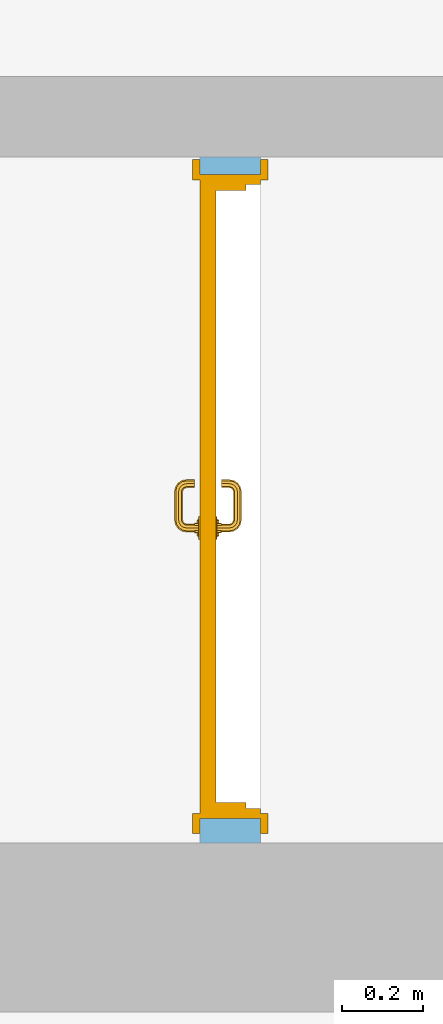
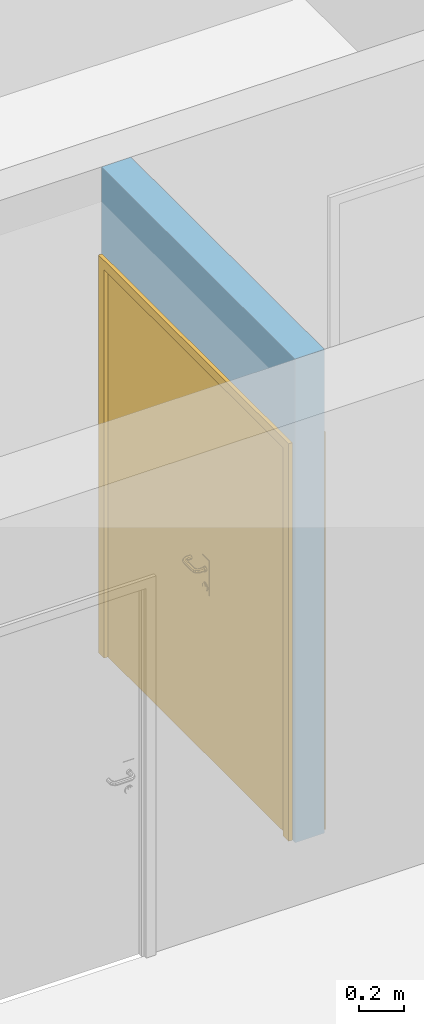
# One storey, part 50 of 127: 1 door, 1 opening, plus 1 element that does not belong to this part.
"""IFC2X3 building model written with IfcOpenShell, lengths in millimetres."""

from ifc_helpers import new_model, entity, si_unit, converted_unit, derived_unit, money_unit, direction, frame, origin_with_axes, origin_2d_with_axis, place, context, subcontext, project, spatial, polyline, rectangle, outline, extrude, open_shell, faceted_brep, surface_model, material, layer, layer_set, layer_usage, type_object, element, fill, save


model = new_model("IFC2X3")

# Units and contexts
model_context = context("Model", 3, precision=1e-05, world=origin_with_axes(), true_north=direction((0.0, 1.0)))
body_context = subcontext(model_context, "Body", "Model", "MODEL_VIEW")
ifc_project = project(units=[si_unit("LENGTHUNIT", "METRE", prefix="MILLI"), si_unit("AREAUNIT", "SQUARE_METRE"), si_unit("VOLUMEUNIT", "CUBIC_METRE"), converted_unit("PLANEANGLEUNIT", "DEGREE", entity("IfcPlaneAngleMeasure", 0.0174532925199), si_unit("PLANEANGLEUNIT", "RADIAN"), dimensions=[0, 0, 0, 0, 0, 0, 0]), si_unit("SOLIDANGLEUNIT", "STERADIAN"), money_unit("EUR"), converted_unit("TIMEUNIT", "Year", entity("IfcTimeMeasure", 31556926.0), si_unit("TIMEUNIT", "SECOND"), dimensions=[0, 0, 1, 0, 0, 0, 0]), si_unit("MASSUNIT", "GRAM", prefix="KILO"), si_unit("THERMODYNAMICTEMPERATUREUNIT", "DEGREE_CELSIUS"), si_unit("LUMINOUSINTENSITYUNIT", "LUMEN"), si_unit("ENERGYUNIT", "JOULE", prefix="MEGA"), derived_unit("THERMALCONDUCTANCEUNIT", [(si_unit("POWERUNIT", "WATT"), 1), (si_unit("LENGTHUNIT", "METRE"), -1), (si_unit("THERMODYNAMICTEMPERATUREUNIT", "KELVIN"), -1)]), derived_unit("SPECIFICHEATCAPACITYUNIT", [(si_unit("ENERGYUNIT", "JOULE"), 1), (si_unit("MASSUNIT", "GRAM", prefix="KILO"), -1), (si_unit("THERMODYNAMICTEMPERATUREUNIT", "KELVIN"), -1)]), derived_unit("MASSDENSITYUNIT", [(si_unit("MASSUNIT", "GRAM", prefix="KILO"), 1), (si_unit("VOLUMEUNIT", "CUBIC_METRE"), -1)])], contexts=[model_context])

# Site, building, storey
site_placement = place(None, origin_with_axes())
site = spatial("IfcSite", under=ifc_project, at=site_placement, Name="Site", CompositionType="ELEMENT")
building_placement = place(site_placement, origin_with_axes())
building = spatial("IfcBuilding", under=site, at=building_placement, Name="Building", CompositionType="ELEMENT")
storey_placement = place(building_placement, origin_with_axes())
storey = spatial("IfcBuildingStorey", under=building, at=storey_placement, Name="1 KORRUS", CompositionType="ELEMENT", Elevation=0.0)

# Wall, opening, door
ifc_material = material(Name="Kivi -  Uus Konstruktsioon")
ifc_layer = layer(ifc_material, 150.0, ventilated="UNKNOWN")
ifc_layer_set = layer_set([ifc_layer], Name="uus ss 150")
ifc_layer_usage = layer_usage(ifc_layer_set, "AXIS2", "POSITIVE", 0.0)
wall_type = type_object("IfcWallType", Name="SS-2", PredefinedType="NOTDEFINED")
wall_placement = place(storey_placement, frame((66803.8474773, 42706.5120665, 0.0), z_axis=(0.0, 0.0, 1.0), x_axis=(0.0, -1.0, 0.0)))
wall = element("IfcWallStandardCase", 1, at=wall_placement, inside=storey, type_object=wall_type, material=ifc_layer_usage, Name="uus ss 150", context=body_context, shape_type="SweptSolid", body=[
    extrude(outline(polyline([(0.0, 0.0), (1703.44713842, 0.0), (1703.44713842, 150.0), (0.0, 150.0), (0.0, 0.0)])), origin_with_axes(), (0.0, 0.0, 1.0), 2600.0),
])
opening_placement = place(wall_placement, frame((843.169461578, 0.0, 0.0), z_axis=(0.0, 0.0, 1.0), x_axis=(1.0, 0.0, 0.0)))
opening = element("IfcOpeningElement", 2, at=opening_placement, cuts=wall, Name="Siseuks * Double Door 22", context=body_context, shape_type="SweptSolid", body=[
    extrude(rectangle(XDim=1600.0, YDim=2100.0, at=origin_2d_with_axis()), frame((0.0, 150.0, 1050.0), z_axis=(0.0, -1.0, 0.0), x_axis=(-1.0, 0.0, 0.0)), (0.0, 0.0, 1.0), 450.0),
    extrude(rectangle(XDim=1674.0, YDim=2137.0, at=origin_2d_with_axis()), frame((0.0, 150.0, 1068.5), z_axis=(0.0, -1.0, 0.0), x_axis=(-1.0, 0.0, 0.0)), (0.0, 0.0, -1.0), 150.0),
    extrude(rectangle(XDim=1674.0, YDim=2137.0, at=origin_2d_with_axis()), frame((0.0, 0.0, 1068.5), z_axis=(0.0, 1.0, 0.0), x_axis=(-1.0, 0.0, 0.0)), (0.0, 0.0, -1.0), 150.0),
])
door_style = type_object("IfcDoorStyle", Name="SU-B137   1\xa0600×2\xa0100", ConstructionType="NOTDEFINED", OperationType="DOUBLE_DOOR_SINGLE_SWING", ParameterTakesPrecedence=False, Sizeable=False)
door_placement = place(opening_placement, frame((800.0, 0.0, 0.0), z_axis=(0.0, 0.0, 1.0), x_axis=(-1.0, 0.0, 0.0)))
door = element("IfcDoor", 3, at=door_placement, inside=storey, type_object=door_style, Name="Siseuks * Double Door 22", OverallHeight=2100.0, OverallWidth=1600.0, context=body_context, shape_type="SurfaceModel", body=[
    faceted_brep([(0.0, -115.0, 0.0), (25.0000000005, -115.0, 0.0), (25.0000000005, -150.0, 0.0), (0.0, -150.0, 0.0), (0.0, -115.0, 2100.0), (25.0000000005, -115.0, 2075.0), (25.0000000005, -150.0, 2075.0), (0.0, -150.0, 2100.0)], [[[0, 1, 2, 3]], [[0, 4, 5, 1]], [[1, 5, 6, 2]], [[3, 2, 6, 7]], [[4, 0, 3, 7]], [[5, 4, 7, 6]]]),
    faceted_brep([(1600.0, -115.0, 2100.0), (1575.0, -115.0, 2075.0), (1575.0, -150.0, 2075.0), (1600.0, -150.0, 2100.0), (1600.0, -115.0, 0.0), (1575.0, -115.0, 0.0), (1575.0, -150.0, 0.0), (1600.0, -150.0, 0.0)], [[[0, 1, 2, 3]], [[0, 4, 5, 1]], [[1, 5, 6, 2]], [[3, 2, 6, 7]], [[4, 0, 3, 7]], [[5, 4, 7, 6]]]),
    faceted_brep([(25.0000000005, -115.0, 2075.0), (1575.0, -115.0, 2075.0), (1575.0, -150.0, 2075.0), (25.0000000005, -150.0, 2075.0), (0.0, -115.0, 2100.0), (1600.0, -115.0, 2100.0), (1600.0, -150.0, 2100.0), (0.0, -150.0, 2100.0)], [[[0, 1, 2, 3]], [[0, 4, 5, 1]], [[1, 5, 6, 2]], [[3, 2, 6, 7]], [[4, 0, 3, 7]], [[5, 4, 7, 6]]]),
    faceted_brep([(-37.0000000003, -169.0, 0.0), (-37.0000000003, -150.0, 0.0), (12.9999999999, -150.0, 0.0), (12.9999999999, -169.0, 0.0), (-37.0000000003, -169.0, 2137.0), (-37.0000000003, -150.0, 2137.0), (12.9999999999, -150.0, 2087.0), (12.9999999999, -169.0, 2087.0)], [[[0, 1, 2, 3]], [[4, 5, 1, 0]], [[1, 5, 6, 2]], [[3, 2, 6, 7]], [[0, 3, 7, 4]], [[7, 6, 5, 4]]]),
    faceted_brep([(1637.0, -169.0, 2137.0), (1637.0, -150.0, 2137.0), (1587.0, -150.0, 2087.0), (1587.0, -169.0, 2087.0), (1637.0, -169.0, 0.0), (1637.0, -150.0, 0.0), (1587.0, -150.0, 0.0), (1587.0, -169.0, 0.0)], [[[0, 1, 2, 3]], [[4, 5, 1, 0]], [[1, 5, 6, 2]], [[3, 2, 6, 7]], [[0, 3, 7, 4]], [[7, 6, 5, 4]]]),
    faceted_brep([(-37.0000000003, -169.0, 2137.0), (-37.0000000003, -150.0, 2137.0), (12.9999999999, -150.0, 2087.0), (12.9999999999, -169.0, 2087.0), (1637.0, -169.0, 2137.0), (1637.0, -150.0, 2137.0), (1587.0, -150.0, 2087.0), (1587.0, -169.0, 2087.0)], [[[0, 1, 2, 3]], [[4, 5, 1, 0]], [[1, 5, 6, 2]], [[3, 2, 6, 7]], [[0, 3, 7, 4]], [[7, 6, 5, 4]]]),
    faceted_brep([(-37.0000000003, 19.0, 0.0), (12.9999999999, 19.0, 0.0), (12.9999999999, 0.0, 0.0), (-37.0000000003, 0.0, 0.0), (-37.0000000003, 19.0, 2137.0), (12.9999999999, 19.0, 2087.0), (12.9999999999, 0.0, 2087.0), (-37.0000000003, 0.0, 2137.0)], [[[0, 1, 2, 3]], [[0, 4, 5, 1]], [[1, 5, 6, 2]], [[3, 2, 6, 7]], [[4, 0, 3, 7]], [[5, 4, 7, 6]]]),
    faceted_brep([(1637.0, 19.0, 2137.0), (1587.0, 19.0, 2087.0), (1587.0, 0.0, 2087.0), (1637.0, 0.0, 2137.0), (1637.0, 19.0, 0.0), (1587.0, 19.0, 0.0), (1587.0, 0.0, 0.0), (1637.0, 0.0, 0.0)], [[[0, 1, 2, 3]], [[0, 4, 5, 1]], [[1, 5, 6, 2]], [[3, 2, 6, 7]], [[4, 0, 3, 7]], [[5, 4, 7, 6]]]),
    faceted_brep([(-37.0000000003, 19.0, 2137.0), (12.9999999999, 19.0, 2087.0), (12.9999999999, 0.0, 2087.0), (-37.0000000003, 0.0, 2137.0), (1637.0, 19.0, 2137.0), (1587.0, 19.0, 2087.0), (1587.0, 0.0, 2087.0), (1637.0, 0.0, 2137.0)], [[[0, 1, 2, 3]], [[0, 4, 5, 1]], [[1, 5, 6, 2]], [[3, 2, 6, 7]], [[4, 0, 3, 7]], [[5, 4, 7, 6]]]),
    faceted_brep([(40.0, -40.0, 0.0), (40.0, -40.0, 2060.0), (40.0, -115.0, 2060.0), (40.0, -115.0, 0.0), (28.0000000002, -40.0, 2060.0), (28.0000000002, -40.0, 0.0), (28.0000000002, 0.0, 2060.0), (0.0, 0.0, 2060.0), (0.0, -115.0, 2060.0), (0.0, -115.0, 0.0), (0.0, 0.0, 0.0), (28.0000000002, 0.0, 0.0)], [[[0, 1, 2, 3]], [[4, 1, 0, 5]], [[4, 6, 7, 8, 2, 1]], [[3, 2, 8, 9]], [[5, 0, 3, 9, 10, 11]], [[6, 4, 5, 11]], [[6, 11, 10, 7]], [[10, 9, 8, 7]]]),
    faceted_brep([(1572.0, -40.0, 2060.0), (1560.0, -40.0, 2060.0), (1560.0, -115.0, 2060.0), (1600.0, -115.0, 2060.0), (1600.0, 0.0, 2060.0), (1572.0, 0.0, 2060.0), (1572.0, -40.0, 0.0), (1560.0, -40.0, 0.0), (1560.0, -115.0, 0.0), (1600.0, -115.0, 0.0), (1600.0, 0.0, 0.0), (1572.0, 0.0, 0.0)], [[[0, 1, 2, 3, 4, 5]], [[1, 0, 6, 7]], [[1, 7, 8, 2]], [[3, 2, 8, 9]], [[4, 3, 9, 10]], [[11, 5, 4, 10]], [[0, 5, 11, 6]], [[6, 11, 10, 9, 8, 7]]]),
    faceted_brep([(28.0000000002, 0.0, 2072.0), (28.0000000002, 0.0, 2060.0), (0.0, 0.0, 2060.0), (0.0, 0.0, 2100.0), (1600.0, 0.0, 2100.0), (1600.0, 0.0, 2060.0), (1572.0, 0.0, 2060.0), (1572.0, 0.0, 2072.0), (28.0000000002, -40.0, 2072.0), (28.0000000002, -40.0, 2060.0), (40.0, -40.0, 2060.0), (40.0, -115.0, 2060.0), (0.0, -115.0, 2060.0), (0.0, -115.0, 2100.0), (1600.0, -115.0, 2100.0), (1600.0, -115.0, 2060.0), (1572.0, -40.0, 2060.0), (1560.0, -115.0, 2060.0), (1560.0, -40.0, 2060.0), (1572.0, -40.0, 2072.0)], [[[0, 1, 2, 3, 4, 5, 6, 7]], [[1, 0, 8, 9]], [[9, 10, 11, 12, 2, 1]], [[2, 12, 13, 3]], [[3, 13, 14, 4]], [[4, 14, 15, 5]], [[16, 6, 5, 15, 17, 18]], [[7, 6, 16, 19]], [[0, 7, 19, 8]], [[16, 18, 10, 9, 8, 19]], [[10, 18, 17, 11]], [[17, 15, 14, 13, 12, 11]]]),
    faceted_brep([(693.5, -40.0, 1060.0), (693.5, -43.0, 1060.0), (750.5, -43.0, 1060.0), (750.5, -40.0, 1060.0), (693.5, -40.0, 870.0), (693.5, -43.0, 870.0), (750.5, -43.0, 870.0), (750.5, -40.0, 870.0)], [[[0, 1, 2, 3]], [[4, 5, 1, 0]], [[1, 5, 6, 2]], [[3, 2, 6, 7]], [[0, 3, 7, 4]], [[7, 6, 5, 4]]]),
    surface_model("IfcShellBasedSurfaceModel", [(732.0, -53.0, 1000.0), (732.0, -72.0150859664, 1000.0), (729.071067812, -72.303560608, 992.928932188), (729.071067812, -53.0, 992.928932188), (729.071067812, -53.0, 1007.07106781), (729.071067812, -72.303560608, 1007.07106781), (732.942203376, -76.7518622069, 1000.0), (730.183209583, -77.8946748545, 992.928932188), (722.0, -73.0, 990.0), (722.0, -53.0, 990.0), (722.0, -53.0, 1010.0), (722.0, -73.0, 1010.0), (730.183209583, -77.8946748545, 1007.07106781), (735.067462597, -79.9325374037, 1000.0), (732.955820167, -82.0441798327, 992.928932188), (723.52240935, -80.6536686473, 990.0), (714.928932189, -73.6964393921, 992.928932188), (714.928932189, -53.0, 992.928932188), (714.928932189, -53.0, 1007.07106781), (714.928932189, -73.6964393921, 1007.07106781), (723.52240935, -80.6536686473, 1010.0), (732.955820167, -82.0441798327, 1007.07106781), (738.248137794, -82.0577966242, 1000.0), (737.105325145, -84.8167904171, 992.928932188), (727.857864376, -87.1421356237, 990.0), (716.861609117, -83.4126624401, 992.928932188), (712.0, -73.9849140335, 1000.0), (712.0, -53.0, 1000.0), (716.861609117, -83.4126624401, 1007.07106781), (727.857864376, -87.1421356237, 1010.0), (737.105325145, -84.8167904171, 1007.07106781), (742.984914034, -83.0, 1000.0), (742.696439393, -85.9289321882, 992.928932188), (734.346331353, -91.4775906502, 990.0), (722.759908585, -92.2400914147, 992.928932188), (714.102615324, -84.5554750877, 1000.0), (722.759908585, -92.2400914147, 1007.07106781), (734.346331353, -91.4775906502, 1010.0), (742.696439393, -85.9289321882, 1007.07106781), (811.015085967, -83.0, 1000.0), (811.303560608, -85.9289321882, 992.928932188), (742.0, -93.0, 990.0), (731.58733756, -98.1383908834, 992.928932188), (720.648266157, -94.3517338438, 1000.0), (731.58733756, -98.1383908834, 1007.07106781), (742.0, -93.0, 1010.0), (811.303560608, -85.9289321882, 1007.07106781), (815.751862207, -82.0577966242, 1000.0), (816.894674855, -84.8167904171, 992.928932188), (812.0, -93.0, 990.0), (741.303560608, -100.071067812, 992.928932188), (730.444524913, -100.897384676, 1000.0), (741.303560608, -100.071067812, 1007.07106781), (812.0, -93.0, 1010.0), (816.894674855, -84.8167904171, 1007.07106781), (818.932537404, -79.9325374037, 1000.0), (821.044179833, -82.0441798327, 992.928932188), (819.653668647, -91.4775906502, 990.0), (812.696439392, -100.071067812, 992.928932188), (741.015085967, -103.0, 1000.0), (812.696439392, -100.071067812, 1007.07106781), (819.653668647, -91.4775906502, 1010.0), (821.044179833, -82.0441798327, 1007.07106781), (821.057796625, -76.7518622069, 1000.0), (823.816790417, -77.8946748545, 992.928932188), (826.142135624, -87.1421356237, 990.0), (822.41266244, -98.1383908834, 992.928932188), (812.984914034, -103.0, 1000.0), (822.41266244, -98.1383908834, 1007.07106781), (826.142135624, -87.1421356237, 1010.0), (823.816790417, -77.8946748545, 1007.07106781), (822.0, -72.0150859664, 1000.0), (824.928932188, -72.303560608, 992.928932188), (830.477590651, -80.6536686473, 990.0), (831.240091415, -92.2400914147, 992.928932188), (823.555475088, -100.897384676, 1000.0), (831.240091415, -92.2400914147, 1007.07106781), (830.477590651, -80.6536686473, 1010.0), (824.928932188, -72.303560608, 1007.07106781), (822.0, -53.0, 1000.0), (824.928932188, -53.0, 992.928932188), (832.0, -73.0, 990.0), (837.138390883, -83.4126624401, 992.928932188), (833.351733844, -94.3517338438, 1000.0), (837.138390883, -83.4126624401, 1007.07106781), (832.0, -73.0, 1010.0), (824.928932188, -53.0, 1007.07106781), (832.0, -53.0, 1010.0), (839.071067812, -53.0, 1007.07106781), (842.000000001, -53.0, 1000.0), (839.071067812, -53.0, 992.928932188), (832.0, -53.0, 990.0), (839.071067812, -73.6964393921, 992.928932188), (839.897384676, -84.5554750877, 1000.0), (839.071067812, -73.6964393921, 1007.07106781), (842.000000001, -73.9849140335, 1000.0)], [open_shell([[[0, 1, 2, 3]], [[4, 5, 1, 0]], [[1, 6, 7, 2]], [[3, 2, 8, 9]], [[10, 11, 5, 4]], [[5, 12, 6, 1]], [[6, 13, 14, 7]], [[2, 7, 15, 8]], [[9, 8, 16, 17]], [[18, 19, 11, 10]], [[11, 20, 12, 5]], [[12, 21, 13, 6]], [[13, 22, 23, 14]], [[7, 14, 24, 15]], [[8, 15, 25, 16]], [[17, 16, 26, 27]], [[27, 26, 19, 18]], [[19, 28, 20, 11]], [[20, 29, 21, 12]], [[21, 30, 22, 13]], [[22, 31, 32, 23]], [[14, 23, 33, 24]], [[15, 24, 34, 25]], [[16, 25, 35, 26]], [[26, 35, 28, 19]], [[28, 36, 29, 20]], [[29, 37, 30, 21]], [[30, 38, 31, 22]], [[31, 39, 40, 32]], [[23, 32, 41, 33]], [[24, 33, 42, 34]], [[25, 34, 43, 35]], [[35, 43, 36, 28]], [[36, 44, 37, 29]], [[37, 45, 38, 30]], [[38, 46, 39, 31]], [[39, 47, 48, 40]], [[32, 40, 49, 41]], [[33, 41, 50, 42]], [[34, 42, 51, 43]], [[43, 51, 44, 36]], [[44, 52, 45, 37]], [[45, 53, 46, 38]], [[46, 54, 47, 39]], [[47, 55, 56, 48]], [[40, 48, 57, 49]], [[41, 49, 58, 50]], [[42, 50, 59, 51]], [[51, 59, 52, 44]], [[52, 60, 53, 45]], [[53, 61, 54, 46]], [[54, 62, 55, 47]], [[55, 63, 64, 56]], [[48, 56, 65, 57]], [[49, 57, 66, 58]], [[50, 58, 67, 59]], [[59, 67, 60, 52]], [[60, 68, 61, 53]], [[61, 69, 62, 54]], [[62, 70, 63, 55]], [[63, 71, 72, 64]], [[56, 64, 73, 65]], [[57, 65, 74, 66]], [[58, 66, 75, 67]], [[67, 75, 68, 60]], [[68, 76, 69, 61]], [[69, 77, 70, 62]], [[70, 78, 71, 63]], [[71, 79, 80, 72]], [[64, 72, 81, 73]], [[65, 73, 82, 74]], [[66, 74, 83, 75]], [[75, 83, 76, 68]], [[76, 84, 77, 69]], [[77, 85, 78, 70]], [[78, 86, 79, 71]], [[79, 86, 87, 88, 89, 90, 91, 80]], [[72, 80, 91, 81]], [[73, 81, 92, 82]], [[74, 82, 93, 83]], [[83, 93, 84, 76]], [[84, 94, 85, 77]], [[85, 87, 86, 78]], [[94, 88, 87, 85]], [[95, 89, 88, 94]], [[92, 90, 89, 95]], [[81, 91, 90, 92]], [[82, 92, 95, 93]], [[93, 95, 94, 84]]])]),
    faceted_brep([(732.392304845, -53.0, 994.0), (733.25833025, -43.0, 993.5), (735.000000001, -43.0, 1000.0), (734.0, -53.0, 1000.0), (728.0, -53.0, 989.607695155), (728.5, -43.0, 988.741669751), (722.0, -43.0, 987.0), (715.5, -43.0, 988.741669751), (710.741669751, -43.0, 993.5), (709.0, -43.0, 1000.0), (710.741669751, -43.0, 1006.5), (715.5, -43.0, 1011.25833025), (722.0, -43.0, 1013.0), (728.5, -43.0, 1011.25833025), (733.25833025, -43.0, 1006.5), (732.392304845, -53.0, 1006.0), (728.0, -53.0, 1010.39230485), (722.0, -53.0, 1012.0), (716.0, -53.0, 1010.39230485), (711.607695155, -53.0, 1006.0), (710.0, -53.0, 1000.0), (711.607695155, -53.0, 994.0), (716.0, -53.0, 989.607695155), (722.0, -53.0, 988.0)], [[[0, 1, 2, 3]], [[4, 5, 1, 0]], [[2, 1, 5, 6, 7, 8, 9, 10, 11, 12, 13, 14]], [[3, 2, 14, 15]], [[3, 15, 16, 17, 18, 19, 20, 21, 22, 23, 4, 0]], [[23, 6, 5, 4]], [[22, 7, 6, 23]], [[21, 8, 7, 22]], [[20, 9, 8, 21]], [[19, 10, 9, 20]], [[18, 11, 10, 19]], [[17, 12, 11, 18]], [[16, 13, 12, 17]], [[15, 14, 13, 16]]]),
    faceted_brep([(739.320508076, -47.0, 895.0), (741.052558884, -43.0, 894.0), (744.000000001, -43.0, 905.0), (742.0, -47.0, 905.0), (732.0, -47.0, 887.679491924), (733.0, -43.0, 885.947441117), (722.0, -43.0, 883.0), (711.0, -43.0, 885.947441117), (702.947441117, -43.0, 894.0), (700.0, -43.0, 905.0), (702.947441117, -43.0, 916.0), (711.0, -43.0, 924.052558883), (722.0, -43.0, 927.0), (733.0, -43.0, 924.052558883), (741.052558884, -43.0, 916.0), (739.320508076, -47.0, 915.0), (732.0, -47.0, 922.320508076), (722.0, -47.0, 925.0), (712.0, -47.0, 922.320508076), (704.679491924, -47.0, 915.0), (702.0, -47.0, 905.0), (704.679491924, -47.0, 895.0), (712.0, -47.0, 887.679491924), (722.0, -47.0, 885.0)], [[[0, 1, 2, 3]], [[4, 5, 1, 0]], [[2, 1, 5, 6, 7, 8, 9, 10, 11, 12, 13, 14]], [[3, 2, 14, 15]], [[3, 15, 16, 17, 18, 19, 20, 21, 22, 23, 4, 0]], [[23, 6, 5, 4]], [[22, 7, 6, 23]], [[21, 8, 7, 22]], [[20, 9, 8, 21]], [[19, 10, 9, 20]], [[18, 11, 10, 19]], [[17, 12, 11, 18]], [[16, 13, 12, 17]], [[15, 14, 13, 16]]]),
    faceted_brep([(726.949747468, -49.0, 909.050252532), (727.656854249, -47.0, 908.343145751), (730.0, -47.0, 914.0), (729.0, -49.0, 914.0), (722.0, -49.0, 907.0), (722.0, -47.0, 906.0), (716.343145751, -47.0, 908.343145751), (714.0, -47.0, 914.0), (716.343145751, -47.0, 919.656854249), (722.0, -47.0, 922.0), (727.656854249, -47.0, 919.656854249), (726.949747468, -49.0, 918.949747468), (722.0, -49.0, 921.0), (717.050252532, -49.0, 918.949747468), (715.0, -49.0, 914.0), (717.050252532, -49.0, 909.050252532)], [[[0, 1, 2, 3]], [[4, 5, 1, 0]], [[2, 1, 5, 6, 7, 8, 9, 10]], [[3, 2, 10, 11]], [[3, 11, 12, 13, 14, 15, 4, 0]], [[15, 6, 5, 4]], [[14, 7, 6, 15]], [[13, 8, 7, 14]], [[12, 9, 8, 13]], [[11, 10, 9, 12]]]),
    faceted_brep([(693.5, 0.0, 1060.0), (750.5, 0.0, 1060.0), (750.5, 3.00000000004, 1060.0), (693.5, 3.00000000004, 1060.0), (693.5, 0.0, 870.0), (750.5, 0.0, 870.0), (750.5, 3.00000000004, 870.0), (693.5, 3.00000000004, 870.0)], [[[0, 1, 2, 3]], [[0, 4, 5, 1]], [[1, 5, 6, 2]], [[3, 2, 6, 7]], [[4, 0, 3, 7]], [[5, 4, 7, 6]]]),
    surface_model("IfcShellBasedSurfaceModel", [(732.0, 13.0, 1000.0), (729.071067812, 13.0, 992.928932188), (729.071067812, 32.3035606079, 992.928932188), (732.0, 32.0150859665, 1000.0), (722.0, 13.0, 990.0), (722.0, 33.0, 990.0), (730.183209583, 37.8946748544, 992.928932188), (732.942203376, 36.751862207, 1000.0), (729.071067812, 13.0, 1007.07106781), (729.071067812, 32.3035606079, 1007.07106781), (714.928932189, 13.0, 992.928932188), (714.928932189, 33.696439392, 992.928932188), (723.52240935, 40.6536686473, 990.0), (732.955820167, 42.0441798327, 992.928932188), (735.067462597, 39.9325374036, 1000.0), (730.183209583, 37.8946748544, 1007.07106781), (722.0, 13.0, 1010.0), (722.0, 33.0, 1010.0), (712.0, 13.0, 1000.0), (712.0, 33.9849140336, 1000.0), (716.861609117, 43.4126624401, 992.928932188), (727.857864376, 47.1421356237, 990.0), (737.105325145, 44.816790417, 992.928932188), (738.248137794, 42.0577966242, 1000.0), (732.955820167, 42.0441798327, 1007.07106781), (723.52240935, 40.6536686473, 1010.0), (714.928932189, 13.0, 1007.07106781), (714.928932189, 33.696439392, 1007.07106781), (714.102615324, 44.5554750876, 1000.0), (722.759908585, 52.2400914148, 992.928932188), (734.346331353, 51.4775906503, 990.0), (742.696439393, 45.9289321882, 992.928932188), (742.984914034, 43.0, 1000.0), (737.105325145, 44.816790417, 1007.07106781), (727.857864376, 47.1421356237, 1010.0), (716.861609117, 43.4126624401, 1007.07106781), (720.648266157, 54.3517338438, 1000.0), (731.58733756, 58.1383908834, 992.928932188), (742.0, 53.0, 990.0), (811.303560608, 45.9289321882, 992.928932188), (811.015085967, 43.0, 1000.0), (742.696439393, 45.9289321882, 1007.07106781), (734.346331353, 51.4775906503, 1010.0), (722.759908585, 52.2400914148, 1007.07106781), (730.444524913, 60.8973846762, 1000.0), (741.303560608, 60.0710678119, 992.928932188), (812.0, 53.0, 990.0), (816.894674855, 44.816790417, 992.928932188), (815.751862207, 42.0577966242, 1000.0), (811.303560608, 45.9289321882, 1007.07106781), (742.0, 53.0, 1010.0), (731.58733756, 58.1383908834, 1007.07106781), (741.015085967, 63.0, 1000.0), (812.696439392, 60.0710678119, 992.928932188), (819.653668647, 51.4775906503, 990.0), (821.044179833, 42.0441798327, 992.928932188), (818.932537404, 39.9325374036, 1000.0), (816.894674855, 44.816790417, 1007.07106781), (812.0, 53.0, 1010.0), (741.303560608, 60.0710678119, 1007.07106781), (812.984914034, 63.0, 1000.0), (822.41266244, 58.1383908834, 992.928932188), (826.142135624, 47.1421356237, 990.0), (823.816790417, 37.8946748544, 992.928932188), (821.057796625, 36.751862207, 1000.0), (821.044179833, 42.0441798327, 1007.07106781), (819.653668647, 51.4775906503, 1010.0), (812.696439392, 60.0710678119, 1007.07106781), (823.555475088, 60.8973846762, 1000.0), (831.240091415, 52.2400914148, 992.928932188), (830.477590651, 40.6536686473, 990.0), (824.928932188, 32.3035606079, 992.928932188), (822.0, 32.0150859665, 1000.0), (823.816790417, 37.8946748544, 1007.07106781), (826.142135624, 47.1421356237, 1010.0), (822.41266244, 58.1383908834, 1007.07106781), (833.351733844, 54.3517338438, 1000.0), (837.138390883, 43.4126624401, 992.928932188), (832.0, 33.0, 990.0), (824.928932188, 13.0, 992.928932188), (822.0, 13.0, 1000.0), (824.928932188, 32.3035606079, 1007.07106781), (830.477590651, 40.6536686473, 1010.0), (831.240091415, 52.2400914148, 1007.07106781), (839.897384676, 44.5554750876, 1000.0), (839.071067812, 33.696439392, 992.928932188), (832.0, 13.0, 990.0), (839.071067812, 13.0, 992.928932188), (842.000000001, 13.0, 1000.0), (839.071067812, 13.0, 1007.07106781), (832.0, 13.0, 1010.0), (824.928932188, 13.0, 1007.07106781), (832.0, 33.0, 1010.0), (837.138390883, 43.4126624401, 1007.07106781), (842.000000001, 33.9849140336, 1000.0), (839.071067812, 33.696439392, 1007.07106781)], [open_shell([[[0, 1, 2, 3]], [[1, 4, 5, 2]], [[3, 2, 6, 7]], [[8, 0, 3, 9]], [[4, 10, 11, 5]], [[2, 5, 12, 6]], [[7, 6, 13, 14]], [[9, 3, 7, 15]], [[16, 8, 9, 17]], [[10, 18, 19, 11]], [[5, 11, 20, 12]], [[6, 12, 21, 13]], [[14, 13, 22, 23]], [[15, 7, 14, 24]], [[17, 9, 15, 25]], [[26, 16, 17, 27]], [[18, 26, 27, 19]], [[11, 19, 28, 20]], [[12, 20, 29, 21]], [[13, 21, 30, 22]], [[23, 22, 31, 32]], [[24, 14, 23, 33]], [[25, 15, 24, 34]], [[27, 17, 25, 35]], [[19, 27, 35, 28]], [[20, 28, 36, 29]], [[21, 29, 37, 30]], [[22, 30, 38, 31]], [[32, 31, 39, 40]], [[33, 23, 32, 41]], [[34, 24, 33, 42]], [[35, 25, 34, 43]], [[28, 35, 43, 36]], [[29, 36, 44, 37]], [[30, 37, 45, 38]], [[31, 38, 46, 39]], [[40, 39, 47, 48]], [[41, 32, 40, 49]], [[42, 33, 41, 50]], [[43, 34, 42, 51]], [[36, 43, 51, 44]], [[37, 44, 52, 45]], [[38, 45, 53, 46]], [[39, 46, 54, 47]], [[48, 47, 55, 56]], [[49, 40, 48, 57]], [[50, 41, 49, 58]], [[51, 42, 50, 59]], [[44, 51, 59, 52]], [[45, 52, 60, 53]], [[46, 53, 61, 54]], [[47, 54, 62, 55]], [[56, 55, 63, 64]], [[57, 48, 56, 65]], [[58, 49, 57, 66]], [[59, 50, 58, 67]], [[52, 59, 67, 60]], [[53, 60, 68, 61]], [[54, 61, 69, 62]], [[55, 62, 70, 63]], [[64, 63, 71, 72]], [[65, 56, 64, 73]], [[66, 57, 65, 74]], [[67, 58, 66, 75]], [[60, 67, 75, 68]], [[61, 68, 76, 69]], [[62, 69, 77, 70]], [[63, 70, 78, 71]], [[72, 71, 79, 80]], [[73, 64, 72, 81]], [[74, 65, 73, 82]], [[75, 66, 74, 83]], [[68, 75, 83, 76]], [[69, 76, 84, 77]], [[70, 77, 85, 78]], [[71, 78, 86, 79]], [[80, 79, 86, 87, 88, 89, 90, 91]], [[81, 72, 80, 91]], [[82, 73, 81, 92]], [[83, 74, 82, 93]], [[76, 83, 93, 84]], [[77, 84, 94, 85]], [[78, 85, 87, 86]], [[85, 94, 88, 87]], [[94, 95, 89, 88]], [[95, 92, 90, 89]], [[92, 81, 91, 90]], [[93, 82, 92, 95]], [[84, 93, 95, 94]]])]),
    faceted_brep([(732.392304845, 13.0, 994.0), (734.0, 13.0, 1000.0), (735.000000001, 3.00000000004, 1000.0), (733.25833025, 3.00000000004, 993.5), (728.0, 13.0, 989.607695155), (722.0, 13.0, 988.0), (716.0, 13.0, 989.607695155), (711.607695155, 13.0, 994.0), (710.0, 13.0, 1000.0), (711.607695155, 13.0, 1006.0), (716.0, 13.0, 1010.39230485), (722.0, 13.0, 1012.0), (728.0, 13.0, 1010.39230485), (732.392304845, 13.0, 1006.0), (733.25833025, 3.00000000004, 1006.5), (728.5, 3.00000000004, 1011.25833025), (722.0, 3.00000000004, 1013.0), (715.5, 3.00000000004, 1011.25833025), (710.741669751, 3.00000000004, 1006.5), (709.0, 3.00000000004, 1000.0), (710.741669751, 3.00000000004, 993.5), (715.5, 3.00000000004, 988.741669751), (722.0, 3.00000000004, 987.0), (728.5, 3.00000000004, 988.741669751)], [[[0, 1, 2, 3]], [[1, 0, 4, 5, 6, 7, 8, 9, 10, 11, 12, 13]], [[1, 13, 14, 2]], [[2, 14, 15, 16, 17, 18, 19, 20, 21, 22, 23, 3]], [[4, 0, 3, 23]], [[5, 4, 23, 22]], [[6, 5, 22, 21]], [[7, 6, 21, 20]], [[8, 7, 20, 19]], [[9, 8, 19, 18]], [[10, 9, 18, 17]], [[11, 10, 17, 16]], [[12, 11, 16, 15]], [[13, 12, 15, 14]]]),
    faceted_brep([(739.320508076, 6.99999999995, 895.0), (742.0, 6.99999999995, 905.0), (744.000000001, 3.00000000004, 905.0), (741.052558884, 3.00000000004, 894.0), (732.0, 6.99999999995, 887.679491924), (722.0, 6.99999999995, 885.0), (712.0, 6.99999999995, 887.679491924), (704.679491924, 6.99999999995, 895.0), (702.0, 6.99999999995, 905.0), (704.679491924, 6.99999999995, 915.0), (712.0, 6.99999999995, 922.320508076), (722.0, 6.99999999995, 925.0), (732.0, 6.99999999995, 922.320508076), (739.320508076, 6.99999999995, 915.0), (741.052558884, 3.00000000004, 916.0), (733.0, 3.00000000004, 924.052558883), (722.0, 3.00000000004, 927.0), (711.0, 3.00000000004, 924.052558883), (702.947441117, 3.00000000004, 916.0), (700.0, 3.00000000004, 905.0), (702.947441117, 3.00000000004, 894.0), (711.0, 3.00000000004, 885.947441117), (722.0, 3.00000000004, 883.0), (733.0, 3.00000000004, 885.947441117)], [[[0, 1, 2, 3]], [[1, 0, 4, 5, 6, 7, 8, 9, 10, 11, 12, 13]], [[1, 13, 14, 2]], [[2, 14, 15, 16, 17, 18, 19, 20, 21, 22, 23, 3]], [[4, 0, 3, 23]], [[5, 4, 23, 22]], [[6, 5, 22, 21]], [[7, 6, 21, 20]], [[8, 7, 20, 19]], [[9, 8, 19, 18]], [[10, 9, 18, 17]], [[11, 10, 17, 16]], [[12, 11, 16, 15]], [[13, 12, 15, 14]]]),
    faceted_brep([(726.949747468, 9.00000000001, 909.050252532), (729.0, 9.00000000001, 914.0), (730.0, 6.99999999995, 914.0), (727.656854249, 6.99999999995, 908.343145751), (722.0, 9.00000000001, 907.0), (717.050252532, 9.00000000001, 909.050252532), (715.0, 9.00000000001, 914.0), (717.050252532, 9.00000000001, 918.949747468), (722.0, 9.00000000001, 921.0), (726.949747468, 9.00000000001, 918.949747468), (727.656854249, 6.99999999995, 919.656854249), (722.0, 6.99999999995, 922.0), (716.343145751, 6.99999999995, 919.656854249), (714.0, 6.99999999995, 914.0), (716.343145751, 6.99999999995, 908.343145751), (722.0, 6.99999999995, 906.0)], [[[0, 1, 2, 3]], [[1, 0, 4, 5, 6, 7, 8, 9]], [[1, 9, 10, 2]], [[2, 10, 11, 12, 13, 14, 15, 3]], [[4, 0, 3, 15]], [[5, 4, 15, 14]], [[6, 5, 14, 13]], [[7, 6, 13, 12]], [[8, 7, 12, 11]], [[9, 8, 11, 10]]]),
    faceted_brep([(1572.0, 0.0, 0.0), (1572.0, -40.0, 0.0), (672.0, -40.0, 0.0), (672.0, 0.0, 0.0), (1572.0, 0.0, 2072.0), (1572.0, -40.0, 2072.0), (672.0, -40.0, 2072.0), (672.0, 0.0, 2072.0)], [[[0, 1, 2, 3]], [[4, 5, 1, 0]], [[1, 5, 6, 2]], [[3, 2, 6, 7]], [[0, 3, 7, 4]], [[7, 6, 5, 4]]]),
    faceted_brep([(28.0000000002, 0.0, 0.0), (672.0, 0.0, 0.0), (672.0, -40.0, 0.0), (28.0000000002, -40.0, 0.0), (28.0000000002, 0.0, 2072.0), (672.0, 0.0, 2072.0), (672.0, -40.0, 2072.0), (28.0000000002, -40.0, 2072.0)], [[[0, 1, 2, 3]], [[0, 4, 5, 1]], [[1, 5, 6, 2]], [[3, 2, 6, 7]], [[4, 0, 3, 7]], [[5, 4, 7, 6]]]),
])
fill(opening, door)

save(model, "model.ifc")
